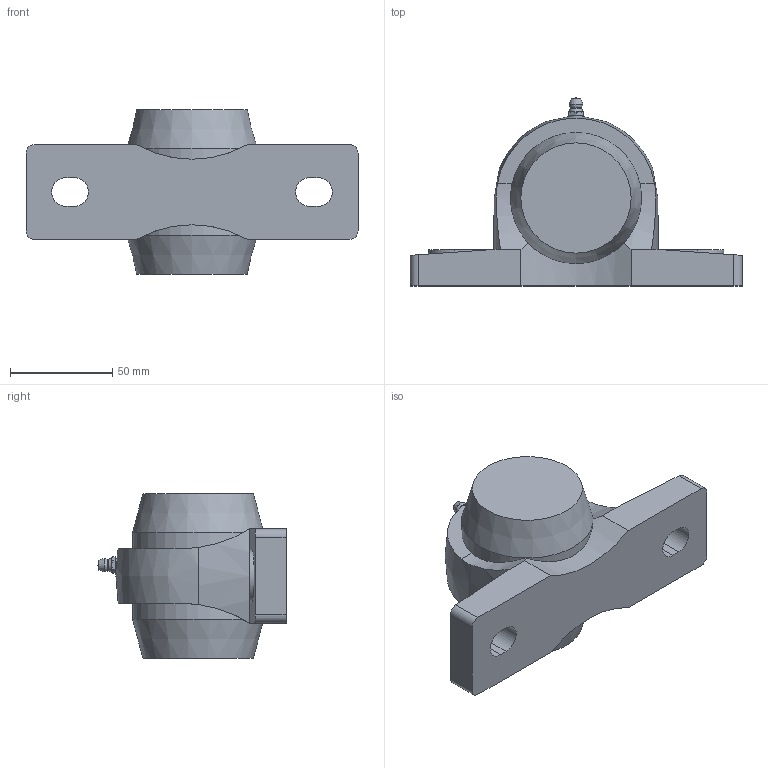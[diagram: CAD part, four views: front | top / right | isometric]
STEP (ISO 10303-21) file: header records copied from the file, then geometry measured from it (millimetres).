
FILE_DESCRIPTION(/* description */ (''),/* implementation_level */ '2;1');
FILE_NAME(/* name */ 'C:\Users\UGijyutu_200702\Desktop\77.プラスチックハウジング\MBPPL200V\MBPPL200VE\MBPPL206VE.stp',/* time_stamp */ '2023-02-10T16:49:12+09:00',/* author */ ('UGijyutu_200702'),/* organization */ (''),/* preprocessor_version */ 'ST-DEVELOPER v18',/* originating_system */ 'Autodesk Inventor 2020',/* authorisation */ '');
FILE_SCHEMA (('AUTOMOTIVE_DESIGN { 1 0 10303 214 3 1 1 }'));
Length unit declared in the file: millimetre
Products named in the file (6): MBPPL206VE; PPL206; MB6 V; 1/4-28UNF-2A; 206E; 206C
Assembly tree (5 placements, depth 2):
  MBPPL206VE
    PPL206
    MB6 V
    1/4-28UNF-2A
    206E
    206C
Bounding box: 162 x 91.8 x 80.4 mm (x, y, z)
Volume: 238310.6 mm3; surface area: 78379.3 mm2
Topology: 5 solids, 5 shells, 126 faces, 317 edges, 214 vertices
Faces by surface type: plane 62, cylinder 38, cone 19, sphere 4, torus 2, bspline 1
Full cylindrical faces by diameter (mm): 3.2 x1, 5 x2, 5.359 x1, 6.35 x1, 30 x2, 35 x1, 40.5 x1, 46 x1, 60 x2, 63.8 x2, 64 x2
Entity records: 4496 total; most frequent: CARTESIAN_POINT 1127, DIRECTION 655, ORIENTED_EDGE 632, EDGE_CURVE 316, AXIS2_PLACEMENT_3D 261, VERTEX_POINT 214, EDGE_LOOP 152, LINE 133
